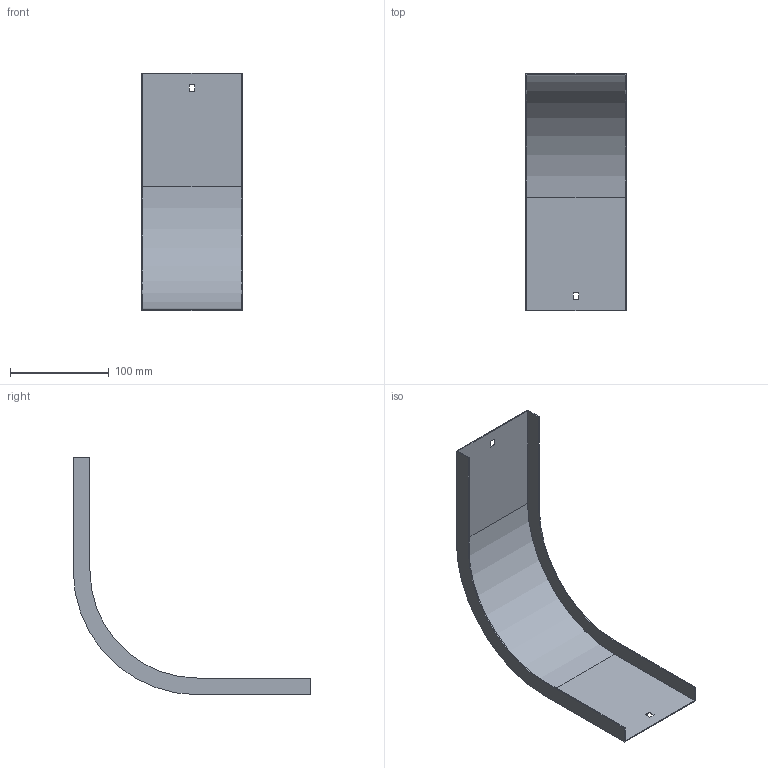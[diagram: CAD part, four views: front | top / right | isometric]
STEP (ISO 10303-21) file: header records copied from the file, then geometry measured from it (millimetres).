
FILE_DESCRIPTION (( 'STEP AP214' ), '1' );
FILE_NAME ('OD9_107.step', '2025-07-16T09:12:46', ( '' ), ( '' ), 'SwSTEP 2.0', 'SolidWorks 2023', '' );
FILE_SCHEMA (( 'AUTOMOTIVE_DESIGN' ));
Length unit declared in the file: millimetre
Products named in the file (1): OD9_107
Bounding box: 102 x 241 x 241 mm (x, y, z)
Volume: 56724.8 mm3; surface area: 114573.7 mm2
Topology: 1 solids, 1 shells, 26 faces, 72 edges, 48 vertices
Faces by surface type: plane 22, cylinder 4
Entity records: 855 total; most frequent: CARTESIAN_POINT 147, ORIENTED_EDGE 144, DIRECTION 134, EDGE_CURVE 72, VECTOR 64, LINE 64, VERTEX_POINT 48, AXIS2_PLACEMENT_3D 35
